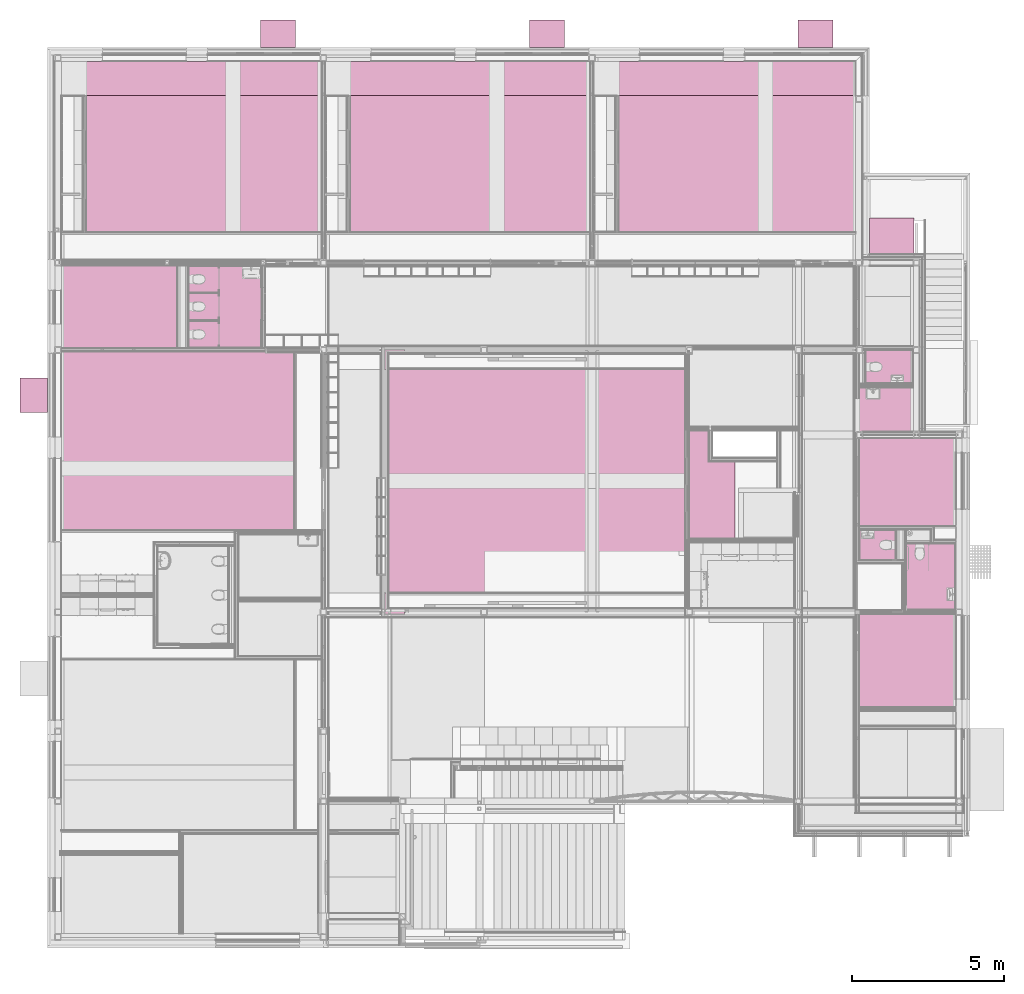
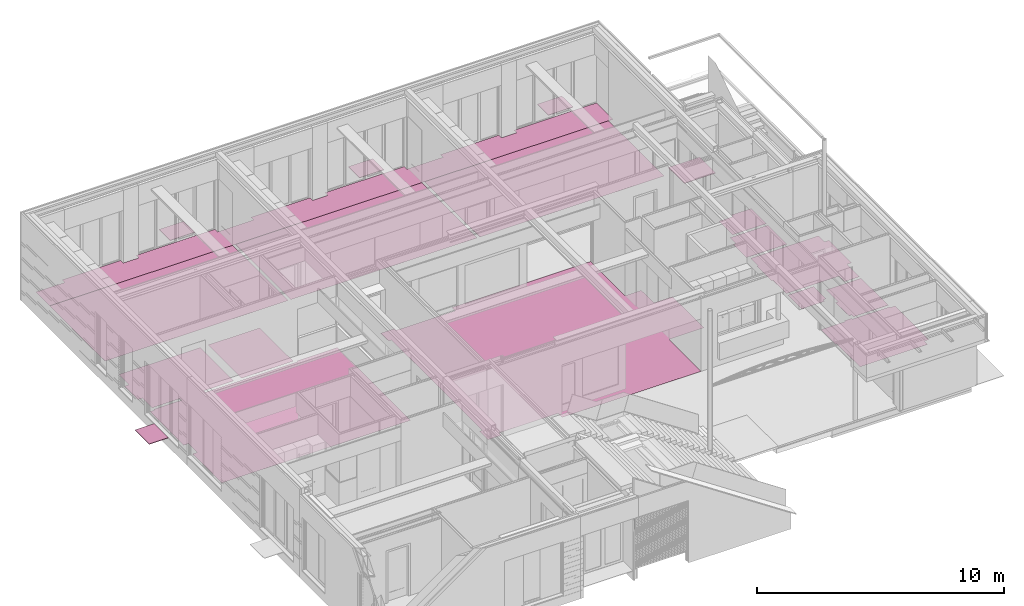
# One storey, part 125 of 165: 18 furnishings.
"""IFC2X3 building model written with IfcOpenShell, lengths in millimetres."""

from ifc_helpers import new_model, entity, si_unit, converted_unit, derived_unit, money_unit, direction, frame, origin_with_axes, place, context, subcontext, project, spatial, faceted_brep, material, type_object, element, save


model = new_model("IFC2X3")

# Units and contexts
model_context = context("Model", 3, precision=0.01, world=origin_with_axes(), true_north=direction((0.0, 1.0)))
body_context = subcontext(model_context, "Body", "Model", "MODEL_VIEW")
ifc_project = project(units=[si_unit("LENGTHUNIT", "METRE", prefix="MILLI"), si_unit("AREAUNIT", "SQUARE_METRE"), si_unit("VOLUMEUNIT", "CUBIC_METRE"), converted_unit("PLANEANGLEUNIT", "DEGREE", entity("IfcPlaneAngleMeasure", 0.0174532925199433), si_unit("PLANEANGLEUNIT", "RADIAN"), dimensions=[0, 0, 0, 0, 0, 0, 0]), money_unit("EUR"), converted_unit("TIMEUNIT", "Year", entity("IfcTimeMeasure", 31556926.0), si_unit("TIMEUNIT", "SECOND"), dimensions=[0, 0, 1, 0, 0, 0, 0]), si_unit("MASSUNIT", "GRAM", prefix="KILO"), si_unit("THERMODYNAMICTEMPERATUREUNIT", "DEGREE_CELSIUS"), si_unit("LUMINOUSINTENSITYUNIT", "LUMEN"), si_unit("ENERGYUNIT", "JOULE", prefix="MEGA"), derived_unit("THERMALCONDUCTANCEUNIT", [(si_unit("POWERUNIT", "WATT"), 1), (si_unit("LENGTHUNIT", "METRE"), -1), (si_unit("THERMODYNAMICTEMPERATUREUNIT", "KELVIN"), -1)]), derived_unit("SPECIFICHEATCAPACITYUNIT", [(si_unit("ENERGYUNIT", "JOULE"), 1), (si_unit("MASSUNIT", "GRAM", prefix="KILO"), -1), (si_unit("THERMODYNAMICTEMPERATUREUNIT", "KELVIN"), -1)]), derived_unit("MASSDENSITYUNIT", [(si_unit("MASSUNIT", "GRAM", prefix="KILO"), 1), (si_unit("VOLUMEUNIT", "CUBIC_METRE"), -1)])], contexts=[model_context])

# Site, building, storey
site_placement = place(None, origin_with_axes())
site = spatial("IfcSite", under=ifc_project, at=site_placement, Name="Site", CompositionType="ELEMENT")
building_placement = place(site_placement, origin_with_axes())
building = spatial("IfcBuilding", under=site, at=building_placement, Name="Naam gebouw", CompositionType="ELEMENT")
storey_placement = place(building_placement, origin_with_axes())
storey = spatial("IfcBuildingStorey", under=building, at=storey_placement, Name="Begane grond", CompositionType="ELEMENT", Elevation=0.0)

# Furnishings
ifc_material_1 = material(Name="48 vloeivloer Bolidt")
furniture_type_1 = type_object("IfcFurnitureType", Name="48 vloeivloer Bolidt 2", AssemblyPlace="NOTDEFINED")
furnishing_1_placement = place(storey_placement, frame((4404.999954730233, 19512.49988871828, 0.0), z_axis=(0.0, 0.0, 1.0), x_axis=(1.0, 0.0, 0.0)))
element("IfcFurnishingElement", 1, at=furnishing_1_placement, inside=storey, type_object=furniture_type_1, material=ifc_material_1, Name="72_43 vloeivloer", ObjectType="SHELF", context=body_context, shape_type="Brep", body=[
    faceted_brep([(0.0, 0.0, 2.0), (0.0, 0.0, 0.0), (2410.000098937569, 0.0, 0.0), (2410.000098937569, 0.0, 2.0), (0.0, 2717.488088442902, 2.0), (0.0, 2717.488088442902, 0.0), (2410.000098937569, 2717.488088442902, 0.0), (2410.000098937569, 2717.488088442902, 2.0)], [[[0, 1, 2, 3]], [[4, 5, 1, 0]], [[2, 1, 5, 6]], [[3, 2, 6, 7]], [[4, 0, 3, 7]], [[7, 6, 5, 4]]]),
])
furnishing_2_placement = place(storey_placement, frame((27925.99904368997, 11022.50018758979, 0.0), z_axis=(0.0, 0.0, 1.0), x_axis=(1.0, 0.0, 0.0)))
element("IfcFurnishingElement", 2, at=furnishing_2_placement, inside=storey, type_object=furniture_type_1, material=ifc_material_1, Name="72_47 vloeivloer", ObjectType="SHELF", context=body_context, shape_type="Brep", body=[
    faceted_brep([(0.0, 0.0, 2.0), (0.0, 0.0, 0.0), (124.0004792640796, 0.0, 0.0), (124.0004792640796, 0.0, 2.0), (0.0, 1080.000017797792, 2.0), (0.0, 1080.000017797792, 0.0), (124.0004792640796, 1080.000017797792, 0.0), (123.9995478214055, 2052.497579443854, 0.0), (1760.000983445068, 2052.497579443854, 0.0), (1760.000983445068, -150.0001490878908, 0.0), (123.9995478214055, -150.0001490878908, 0.0), (123.9995478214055, -150.0001490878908, 2.0), (1760.000983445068, -150.0001490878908, 2.0), (1760.000983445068, 2052.497579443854, 2.0), (123.9995478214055, 2052.497579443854, 2.0), (124.0004792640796, 1080.000017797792, 2.0)], [[[0, 1, 2, 3]], [[4, 5, 1, 0]], [[2, 1, 5, 6, 7, 8, 9, 10]], [[3, 2, 10, 11]], [[4, 0, 3, 11, 12, 13, 14, 15]], [[15, 6, 5, 4]], [[14, 7, 6, 15]], [[13, 8, 7, 14]], [[12, 9, 8, 13]], [[11, 10, 9, 12]]]),
])
furnishing_3_placement = place(storey_placement, frame((26711.000123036, 19450.00039292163, 0.0), z_axis=(0.0, 0.0, 1.0), x_axis=(1.0, 0.0, 0.0)))
element("IfcFurnishingElement", 3, at=furnishing_3_placement, inside=storey, type_object=furniture_type_1, material=ifc_material_1, Name="72_45 vloeivloer", ObjectType="SHELF", context=body_context, shape_type="Brep", body=[
    faceted_brep([(0.0, 0.0, 2.0), (0.0, 0.0, 0.0), (0.0, -1114.000073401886, 0.0), (0.0, -1114.000073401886, 2.0), (644.9998566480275, -3.506379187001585e-06, 2.0), (644.9998566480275, -3.506379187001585e-06, 0.0), (644.9998561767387, 124.9999996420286, 0.0), (1574.999846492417, 125.0000031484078, 0.0), (1574.999846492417, -1114.000073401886, 0.0), (1574.999846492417, -1114.000073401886, 2.0), (1574.999846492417, 125.0000031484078, 2.0), (644.9998561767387, 124.9999996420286, 2.0)], [[[0, 1, 2, 3]], [[4, 5, 1, 0]], [[2, 1, 5, 6, 7, 8]], [[3, 2, 8, 9]], [[4, 0, 3, 9, 10, 11]], [[11, 6, 5, 4]], [[10, 7, 6, 11]], [[9, 8, 7, 10]]]),
])
furnishing_4_placement = place(storey_placement, frame((26510.99998966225, 17740.99778355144, 0.0), z_axis=(0.0, 0.0, 1.0), x_axis=(1.0, 0.0, 0.0)))
element("IfcFurnishingElement", 4, at=furnishing_4_placement, inside=storey, type_object=furniture_type_1, material=ifc_material_1, Name="72_46 vloeivloer", ObjectType="SHELF", context=body_context, shape_type="Brep", body=[
    faceted_brep([(0.0, 0.0, 2.0), (0.0, 0.0, 0.0), (-124.9999550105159, 0.0, 0.0), (-124.9999550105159, 0.0, 2.0), (0.0, 470.002506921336, 2.0), (0.0, 470.002506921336, 0.0), (1774.999882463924, 470.002506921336, 0.0), (1774.999882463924, -1080.000005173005, 0.0), (-124.9999550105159, -1080.000005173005, 0.0), (-124.9999550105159, -1080.000005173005, 2.0), (1774.999882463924, -1080.000005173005, 2.0), (1774.999882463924, 470.002506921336, 2.0)], [[[0, 1, 2, 3]], [[4, 5, 1, 0]], [[2, 1, 5, 6, 7, 8]], [[3, 2, 8, 9]], [[4, 0, 3, 9, 10, 11]], [[11, 6, 5, 4]], [[10, 7, 6, 11]], [[9, 8, 7, 10]]]),
])
furnishing_5_placement = place(storey_placement, frame((26510.99992682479, 13524.99789537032, 0.0), z_axis=(0.0, 0.0, 1.0), x_axis=(1.0, 0.0, 0.0)))
element("IfcFurnishingElement", 5, at=furnishing_5_placement, inside=storey, type_object=furniture_type_1, material=ifc_material_1, Name="72_47 vloeivloer", ObjectType="SHELF", context=body_context, shape_type="Brep", body=[
    faceted_brep([(0.0, 0.0, 2.0), (0.0, 0.0, 0.0), (0.0, -1124.999557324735, 0.0), (0.0, -1124.999557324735, 2.0), (1213.998271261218, 0.0, 2.0), (1213.998271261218, 0.0, 0.0), (1213.998552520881, -999.9987627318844, 0.0), (1079.999698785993, -999.9987627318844, 0.0), (1079.999698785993, -1124.999557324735, 0.0), (1079.999698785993, -1124.999557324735, 2.0), (1079.999698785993, -999.9987627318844, 2.0), (1213.998552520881, -999.9987627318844, 2.0)], [[[0, 1, 2, 3]], [[4, 5, 1, 0]], [[1, 5, 6, 7, 8, 2]], [[3, 2, 8, 9]], [[4, 0, 3, 9, 10, 11]], [[11, 6, 5, 4]], [[10, 7, 6, 11]], [[9, 8, 7, 10]]]),
])
ifc_material_2 = material(Name="43 Forbo Walton")
furniture_type_2 = type_object("IfcFurnitureType", Name="43 Forbo Walton 2", AssemblyPlace="NOTDEFINED")
furnishing_6_placement = place(storey_placement, frame((0.0, 16584.9998112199, 0.0), z_axis=(0.0, 0.0, 1.0), x_axis=(1.0, 0.0, 0.0)))
element("IfcFurnishingElement", 6, at=furnishing_6_placement, inside=storey, type_object=furniture_type_2, material=ifc_material_2, Name="72_43 marmoleum", ObjectType="SHELF", context=body_context, shape_type="Brep", body=[
    faceted_brep([(0.0, 0.0, 2.0), (0.0, 0.0, 0.0), (213.9999657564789, 0.0, 0.0), (213.9999657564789, 0.0, 2.0), (0.0, 2739.999999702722, 2.0), (0.0, 2739.999999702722, 0.0), (213.9999657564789, 2739.999999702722, 0.0), (213.9999657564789, 2802.500053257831, 0.0), (1513.999991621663, 2802.500053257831, 0.0), (1513.999991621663, 2927.500024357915, 0.0), (213.9999657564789, 2927.500024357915, 0.0), (214.0000000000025, 3724.999999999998, 0.0), (-2.579227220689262e-06, 3724.999999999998, 0.0), (-2.579227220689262e-06, 4824.999999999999, 0.0), (214.0000000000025, 4824.999999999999, 0.0), (213.9999657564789, 5644.987164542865, 0.0), (4030.000052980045, 5644.987164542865, 0.0), (4030.000052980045, 2927.500024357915, 0.0), (2644.000007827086, 2927.500024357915, 0.0), (2644.000007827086, 2802.500053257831, 0.0), (6939.999918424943, 2802.500053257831, 0.0), (6939.999918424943, 2864.99997080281, 0.0), (8849.999966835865, 2864.99997080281, 0.0), (8849.999966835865, -3079.999546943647, 0.0), (0.0, -3079.999546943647, 0.0), (0.0, -710.0000000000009, 0.0), (213.9999657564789, -710.0000000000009, 0.0), (213.9999657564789, -710.0000000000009, 2.0), (0.0, -710.0000000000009, 2.0), (0.0, -3079.999546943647, 2.0), (8849.999966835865, -3079.999546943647, 2.0), (8849.999966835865, 2864.99997080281, 2.0), (6939.999918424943, 2864.99997080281, 2.0), (6939.999918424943, 2802.500053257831, 2.0), (2644.000007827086, 2802.500053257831, 2.0), (2644.000007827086, 2927.500024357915, 2.0), (4030.000052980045, 2927.500024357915, 2.0), (4030.000052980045, 5644.987164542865, 2.0), (213.9999657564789, 5644.987164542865, 2.0), (214.0000000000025, 4824.999999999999, 2.0), (-2.579227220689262e-06, 4824.999999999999, 2.0), (-2.579227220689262e-06, 3724.999999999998, 2.0), (214.0000000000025, 3724.999999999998, 2.0), (213.9999657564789, 2927.500024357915, 2.0), (1513.999991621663, 2927.500024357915, 2.0), (1513.999991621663, 2802.500053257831, 2.0), (213.9999657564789, 2802.500053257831, 2.0), (213.9999657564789, 2739.999999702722, 2.0)], [[[0, 1, 2, 3]], [[4, 5, 1, 0]], [[2, 1, 5, 6, 7, 8, 9, 10, 11, 12, 13, 14, 15, 16, 17, 18, 19, 20, 21, 22, 23, 24, 25, 26]], [[3, 2, 26, 27]], [[4, 0, 3, 27, 28, 29, 30, 31, 32, 33, 34, 35, 36, 37, 38, 39, 40, 41, 42, 43, 44, 45, 46, 47]], [[47, 6, 5, 4]], [[46, 7, 6, 47]], [[45, 8, 7, 46]], [[44, 9, 8, 45]], [[43, 10, 9, 44]], [[42, 11, 10, 43]], [[41, 12, 11, 42]], [[40, 13, 12, 41]], [[39, 14, 13, 40]], [[38, 15, 14, 39]], [[37, 16, 15, 38]], [[36, 17, 16, 37]], [[35, 18, 17, 36]], [[34, 19, 18, 35]], [[33, 20, 19, 34]], [[32, 21, 20, 33]], [[31, 22, 21, 32]], [[30, 23, 22, 31]], [[29, 24, 23, 30]], [[28, 25, 24, 29]], [[27, 26, 25, 28]]]),
])
furnishing_7_placement = place(storey_placement, frame((26448.49999566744, 9547.50013331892, 0.0), z_axis=(0.0, 0.0, 1.0), x_axis=(1.0, 0.0, 0.0)))
element("IfcFurnishingElement", 7, at=furnishing_7_placement, inside=storey, type_object=furniture_type_2, material=ifc_material_2, Name="72_44 marmoleum", ObjectType="SHELF", context=body_context, shape_type="Brep", body=[
    faceted_brep([(0.0, 0.0, 2.0), (0.0, 0.0, 0.0), (62.50026497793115, 0.0, 0.0), (62.50026497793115, 0.0, 2.0), (0.0, 1200.000068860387, 2.0), (0.0, 1200.000068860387, 0.0), (1142.317457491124, 1200.000068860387, 0.0), (1142.317457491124, 1262.499706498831, 0.0), (1476.500262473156, 1262.499706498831, 0.0), (1476.500262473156, 1200.000068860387, 0.0), (3237.499924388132, 1200.000068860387, 0.0), (3237.499924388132, 1147.499977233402, 0.0), (3451.500166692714, 1147.499977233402, 0.0), (3451.500166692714, -1602.500022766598, 0.0), (3237.499924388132, -1602.500022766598, 0.0), (3237.499924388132, -1872.502041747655, 0.0), (62.50026497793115, -1872.502041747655, 0.0), (62.50026497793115, -1872.502041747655, 2.0), (3237.499924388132, -1872.502041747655, 2.0), (3237.499924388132, -1602.500022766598, 2.0), (3451.500166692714, -1602.500022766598, 2.0), (3451.500166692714, 1147.499977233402, 2.0), (3237.499924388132, 1147.499977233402, 2.0), (3237.499924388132, 1200.000068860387, 2.0), (1476.500262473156, 1200.000068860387, 2.0), (1476.500262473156, 1262.499706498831, 2.0), (1142.317457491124, 1262.499706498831, 2.0), (1142.317457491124, 1200.000068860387, 2.0)], [[[0, 1, 2, 3]], [[4, 5, 1, 0]], [[2, 1, 5, 6, 7, 8, 9, 10, 11, 12, 13, 14, 15, 16]], [[3, 2, 16, 17]], [[4, 0, 3, 17, 18, 19, 20, 21, 22, 23, 24, 25, 26, 27]], [[27, 6, 5, 4]], [[26, 7, 6, 27]], [[25, 8, 7, 26]], [[24, 9, 8, 25]], [[23, 10, 9, 24]], [[22, 11, 10, 23]], [[21, 12, 11, 22]], [[20, 13, 12, 21]], [[19, 14, 13, 20]], [[18, 15, 14, 19]], [[17, 16, 15, 18]]]),
])
furnishing_8_placement = place(storey_placement, frame((26448.49983591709, 15929.9977211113, 0.0), z_axis=(0.0, 0.0, 1.0), x_axis=(1.0, 0.0, 0.0)))
element("IfcFurnishingElement", 8, at=furnishing_8_placement, inside=storey, type_object=furniture_type_2, material=ifc_material_2, Name="72_43 marmoleum", ObjectType="SHELF", context=body_context, shape_type="Brep", body=[
    faceted_brep([(0.0, 0.0, 2.0), (0.0, 0.0, 0.0), (0.0, -1200.000057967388, 0.0), (0.0, -1200.000057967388, 2.0), (62.50026441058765, 0.0, 2.0), (62.50026441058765, 0.0, 0.0), (62.50026441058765, 605.9999038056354, 0.0), (3237.500208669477, 605.9999038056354, 0.0), (3237.500208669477, 126.0000605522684, 0.0), (3451.50013536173, 126.0000605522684, 0.0), (3451.50013536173, -1723.999939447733, 0.0), (3237.500208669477, -1723.999939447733, 0.0), (3237.500208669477, -2729.999801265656, 0.0), (2537.500255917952, -2729.999944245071, 0.0), (2537.500164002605, -2279.999939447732, 0.0), (62.50026441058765, -2279.999796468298, 0.0), (62.50026441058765, -1200.000057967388, 0.0), (62.50026441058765, -1200.000057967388, 2.0), (62.50026441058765, -2279.999796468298, 2.0), (2537.500164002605, -2279.999939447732, 2.0), (2537.500255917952, -2729.999944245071, 2.0), (3237.500208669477, -2729.999801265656, 2.0), (3237.500208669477, -1723.999939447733, 2.0), (3451.50013536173, -1723.999939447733, 2.0), (3451.50013536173, 126.0000605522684, 2.0), (3237.500208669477, 126.0000605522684, 2.0), (3237.500208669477, 605.9999038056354, 2.0), (62.50026441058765, 605.9999038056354, 2.0)], [[[0, 1, 2, 3]], [[4, 5, 1, 0]], [[2, 1, 5, 6, 7, 8, 9, 10, 11, 12, 13, 14, 15, 16]], [[3, 2, 16, 17]], [[4, 0, 3, 17, 18, 19, 20, 21, 22, 23, 24, 25, 26, 27]], [[27, 6, 5, 4]], [[26, 7, 6, 27]], [[25, 8, 7, 26]], [[24, 9, 8, 25]], [[23, 10, 9, 24]], [[22, 11, 10, 23]], [[21, 12, 11, 22]], [[20, 13, 12, 21]], [[19, 14, 13, 20]], [[18, 15, 14, 19]], [[17, 16, 15, 18]]]),
])
furnishing_9_placement = place(storey_placement, frame((214.0000000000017, 23324.99984707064, 0.0), z_axis=(0.0, 0.0, 1.0), x_axis=(1.0, 0.0, 0.0)))
element("IfcFurnishingElement", 9, at=furnishing_9_placement, inside=storey, type_object=furniture_type_2, material=ifc_material_2, Name="72_43 marmoleum", ObjectType="SHELF", context=body_context, shape_type="Brep", body=[
    faceted_brep([(0.0, 0.0, 2.0), (0.0, 0.0, 0.0), (8573.500041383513, 0.0, 0.0), (8573.500041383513, 0.0, 2.0), (0.0, 4506.000093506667, 2.0), (0.0, 4506.000093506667, 0.0), (8573.500041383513, 4506.000093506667, 0.0), (8573.500041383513, 4506.000093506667, 2.0)], [[[0, 1, 2, 3]], [[4, 5, 1, 0]], [[2, 1, 5, 6]], [[3, 2, 6, 7]], [[4, 0, 3, 7]], [[7, 6, 5, 4]]]),
])
furnishing_10_placement = place(storey_placement, frame((10874.99561973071, 11449.99777866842, 0.0), z_axis=(0.0, 0.0, 1.0), x_axis=(1.0, 0.0, 0.0)))
element("IfcFurnishingElement", 10, at=furnishing_10_placement, inside=storey, type_object=furniture_type_2, material=ifc_material_2, Name="72_43 marmoleum", ObjectType="SHELF", context=body_context, shape_type="Brep", body=[
    faceted_brep([(0.0, 0.0, 2.0), (0.0, 0.0, 0.0), (0.004884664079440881, -694.9990031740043, 0.0), (0.004884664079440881, -694.9990031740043, 2.0), (135.0043007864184, 0.00118371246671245, 2.0), (135.0043007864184, 0.00118371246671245, 0.0), (135.0043007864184, 7360.00262268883, 0.0), (0.004498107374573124, 7360.00262268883, 0.0), (0.004498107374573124, 8000.002572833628, 0.0), (640.0042115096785, 8000.002572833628, 0.0), (640.0042115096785, 7865.002770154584, 0.0), (3400.002330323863, 7865.002614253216, 0.0), (3400.002146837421, 8135.002614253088, 0.0), (9900.002290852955, 8135.007031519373, 0.0), (9900.00360114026, 5339.999902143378, 0.0), (10665.00342026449, 5339.999902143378, 0.0), (10665.00342026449, 4324.999996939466, 0.0), (11540.00355261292, 4324.999996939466, 0.0), (11540.00355261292, 1780.000283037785, 0.0), (9900.00360114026, 1780.000283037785, 0.0), (9900.006575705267, -829.997168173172, 0.0), (3400.006361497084, -829.998961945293, 0.0), (3400.006271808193, -504.9979166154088, 0.0), (640.0042115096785, -504.9987270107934, 0.0), (640.0052110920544, -694.9973459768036, 0.0), (640.0052110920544, -694.9973459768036, 2.0), (640.0042115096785, -504.9987270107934, 2.0), (3400.006271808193, -504.9979166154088, 2.0), (3400.006361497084, -829.998961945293, 2.0), (9900.006575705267, -829.997168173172, 2.0), (9900.00360114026, 1780.000283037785, 2.0), (11540.00355261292, 1780.000283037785, 2.0), (11540.00355261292, 4324.999996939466, 2.0), (10665.00342026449, 4324.999996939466, 2.0), (10665.00342026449, 5339.999902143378, 2.0), (9900.00360114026, 5339.999902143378, 2.0), (9900.002290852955, 8135.007031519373, 2.0), (3400.002146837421, 8135.002614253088, 2.0), (3400.002330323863, 7865.002614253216, 2.0), (640.0042115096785, 7865.002770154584, 2.0), (640.0042115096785, 8000.002572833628, 2.0), (0.004498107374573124, 8000.002572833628, 2.0), (0.004498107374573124, 7360.00262268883, 2.0), (135.0043007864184, 7360.00262268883, 2.0)], [[[0, 1, 2, 3]], [[4, 5, 1, 0]], [[2, 1, 5, 6, 7, 8, 9, 10, 11, 12, 13, 14, 15, 16, 17, 18, 19, 20, 21, 22, 23, 24]], [[3, 2, 24, 25]], [[4, 0, 3, 25, 26, 27, 28, 29, 30, 31, 32, 33, 34, 35, 36, 37, 38, 39, 40, 41, 42, 43]], [[43, 6, 5, 4]], [[42, 7, 6, 43]], [[41, 8, 7, 42]], [[40, 9, 8, 41]], [[39, 10, 9, 40]], [[38, 11, 10, 39]], [[37, 12, 11, 38]], [[36, 13, 12, 37]], [[35, 14, 13, 36]], [[34, 15, 14, 35]], [[33, 16, 15, 34]], [[32, 17, 16, 33]], [[31, 18, 17, 32]], [[30, 19, 18, 31]], [[29, 20, 19, 30]], [[28, 21, 20, 29]], [[27, 22, 21, 28]], [[26, 23, 22, 27]], [[25, 24, 23, 26]]]),
])
furnishing_11_placement = place(storey_placement, frame((17762.49942456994, 27830.99998847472, 0.0), z_axis=(0.0, 0.0, 1.0), x_axis=(1.0, 0.0, 0.0)))
element("IfcFurnishingElement", 11, at=furnishing_11_placement, inside=storey, type_object=furniture_type_2, material=ifc_material_2, Name="72_43 marmoleum", ObjectType="SHELF", context=body_context, shape_type="Brep", body=[
    faceted_brep([(0.0, 0.0, 2.0), (0.0, 0.0, 0.0), (0.0, -4506.000141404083, 0.0), (0.0, -4506.000141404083, 2.0), (8623.500576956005, 0.0, 2.0), (8623.500576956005, 0.0, 0.0), (8623.500576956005, -4506.000141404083, 0.0), (8623.500576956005, -4506.000141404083, 2.0)], [[[0, 1, 2, 3]], [[4, 5, 1, 0]], [[2, 1, 5, 6]], [[3, 2, 6, 7]], [[4, 0, 3, 7]], [[7, 6, 5, 4]]]),
])
furnishing_12_placement = place(storey_placement, frame((8912.49998279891, 23324.99984707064, 0.0), z_axis=(0.0, 0.0, 1.0), x_axis=(1.0, 0.0, 0.0)))
element("IfcFurnishingElement", 12, at=furnishing_12_placement, inside=storey, type_object=furniture_type_2, material=ifc_material_2, Name="72_43 marmoleum", ObjectType="SHELF", context=body_context, shape_type="Brep", body=[
    faceted_brep([(0.0, 0.0, 2.0), (0.0, 0.0, 0.0), (8724.999441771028, 0.0, 0.0), (8724.999441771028, 0.0, 2.0), (0.0, 4506.000031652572, 2.0), (0.0, 4506.000031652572, 0.0), (8724.999441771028, 4506.000031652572, 0.0), (8724.999441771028, 4506.000031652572, 2.0)], [[[0, 1, 2, 3]], [[4, 5, 1, 0]], [[2, 1, 5, 6]], [[3, 2, 6, 7]], [[4, 0, 3, 7]], [[7, 6, 5, 4]]]),
])
ifc_material_3 = material(Name="43 Forbo Striato")
furniture_type_3 = type_object("IfcFurnitureType", Name="43 Forbo Striato  2", AssemblyPlace="NOTDEFINED")
furnishing_13_placement = place(storey_placement, frame((214.0000000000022, 28961.0, 0.0), z_axis=(0.0, 0.0, 1.0), x_axis=(1.0, 0.0, 0.0)))
element("IfcFurnishingElement", 13, at=furnishing_13_placement, inside=storey, type_object=furniture_type_3, material=ifc_material_3, Name="72_43 marmoleum", ObjectType="SHELF", context=body_context, shape_type="Brep", body=[
    faceted_brep([(0.0, 0.0, 2.0), (0.0, 0.0, 0.0), (0.0, -1130.000000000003, 0.0), (0.0, -1130.000000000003, 2.0), (1361.000000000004, 0.0, 2.0), (1361.000000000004, 0.0, 0.0), (1361.000000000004, 214.0000025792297, 0.0), (4111.000000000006, 214.0000025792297, 0.0), (4111.000000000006, 0.0, 0.0), (4821.000000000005, 0.0, 0.0), (4821.000000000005, 214.0000025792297, 0.0), (8521.000000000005, 214.0000025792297, 0.0), (8521.000000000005, 0.0, 0.0), (10210.99942456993, 0.0, 0.0), (10210.99942456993, 214.0000025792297, 0.0), (12960.99942456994, 214.0000025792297, 0.0), (12960.99942456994, 0.0, 0.0), (13670.99942456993, 0.0, 0.0), (13670.99942456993, 214.0000025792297, 0.0), (17370.99942456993, 214.0000025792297, 0.0), (17370.99942456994, 0.0, 0.0), (19060.99942456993, 0.0, 0.0), (19060.99942456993, 214.0000025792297, 0.0), (21810.99942456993, 214.0000025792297, 0.0), (21810.99942456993, 0.0, 0.0), (22520.99942456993, 0.0, 0.0), (22520.99942456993, 214.0000025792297, 0.0), (26386.0, 214.0000000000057, 0.0), (26386.0, -1130.000000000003, 0.0), (26386.0, -1130.000000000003, 2.0), (26386.0, 214.0000000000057, 2.0), (22520.99942456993, 214.0000025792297, 2.0), (22520.99942456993, 0.0, 2.0), (21810.99942456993, 0.0, 2.0), (21810.99942456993, 214.0000025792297, 2.0), (19060.99942456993, 214.0000025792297, 2.0), (19060.99942456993, 0.0, 2.0), (17370.99942456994, 0.0, 2.0), (17370.99942456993, 214.0000025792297, 2.0), (13670.99942456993, 214.0000025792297, 2.0), (13670.99942456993, 0.0, 2.0), (12960.99942456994, 0.0, 2.0), (12960.99942456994, 214.0000025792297, 2.0), (10210.99942456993, 214.0000025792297, 2.0), (10210.99942456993, 0.0, 2.0), (8521.000000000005, 0.0, 2.0), (8521.000000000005, 214.0000025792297, 2.0), (4821.000000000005, 214.0000025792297, 2.0), (4821.000000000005, 0.0, 2.0), (4111.000000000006, 0.0, 2.0), (4111.000000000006, 214.0000025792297, 2.0), (1361.000000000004, 214.0000025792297, 2.0)], [[[0, 1, 2, 3]], [[4, 5, 1, 0]], [[2, 1, 5, 6, 7, 8, 9, 10, 11, 12, 13, 14, 15, 16, 17, 18, 19, 20, 21, 22, 23, 24, 25, 26, 27, 28]], [[3, 2, 28, 29]], [[4, 0, 3, 29, 30, 31, 32, 33, 34, 35, 36, 37, 38, 39, 40, 41, 42, 43, 44, 45, 46, 47, 48, 49, 50, 51]], [[51, 6, 5, 4]], [[50, 7, 6, 51]], [[49, 8, 7, 50]], [[48, 9, 8, 49]], [[47, 10, 9, 48]], [[46, 11, 10, 47]], [[45, 12, 11, 46]], [[44, 13, 12, 45]], [[43, 14, 13, 44]], [[42, 15, 14, 43]], [[41, 16, 15, 42]], [[40, 17, 16, 41]], [[39, 18, 17, 40]], [[38, 19, 18, 39]], [[37, 20, 19, 38]], [[36, 21, 20, 37]], [[35, 22, 21, 36]], [[34, 23, 22, 35]], [[33, 24, 23, 34]], [[32, 25, 24, 33]], [[31, 26, 25, 32]], [[30, 27, 26, 31]], [[29, 28, 27, 30]]]),
])
ifc_material_4 = material(Name="Vloerafwerking - schoonloopzone 1")
furniture_type_4 = type_object("IfcFurnitureType", Name="Vloerafwerking - schoonloopzone 1 25", AssemblyPlace="NOTDEFINED")
furnishing_14_placement = place(storey_placement, frame((26850.0, 22496.97621575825, -20.0), z_axis=(0.0, 0.0, 1.0), x_axis=(1.0, 0.0, 0.0)))
element("IfcFurnishingElement", 14, at=furnishing_14_placement, inside=storey, type_object=furniture_type_4, material=ifc_material_4, Name="72_43 schoonloop zone 1", ObjectType="SHELF", context=body_context, shape_type="Brep", body=[
    faceted_brep([(0.0, 0.0, 0.0), (0.0, 0.0, -25.0), (1466.000071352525, 0.0, -25.0), (1466.000071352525, 0.0, 0.0), (0.0, 1300.000000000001, 0.0), (0.0, 1300.000000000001, -25.0), (1466.000071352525, 1300.000000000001, -25.0), (1466.000071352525, 1300.000000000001, 0.0)], [[[0, 1, 2, 3]], [[4, 5, 1, 0]], [[2, 1, 5, 6]], [[3, 2, 6, 7]], [[4, 0, 3, 7]], [[7, 6, 5, 4]]]),
])
furnishing_15_placement = place(storey_placement, frame((-249.9999999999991, 18534.9998112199, -20.0), z_axis=(0.0, 0.0, 1.0), x_axis=(1.0, 0.0, 0.0)))
element("IfcFurnishingElement", 15, at=furnishing_15_placement, inside=storey, type_object=furniture_type_4, material=ifc_material_4, Name="72_43 schoonloop zone 1", ObjectType="SHELF", context=body_context, shape_type="Brep", body=[
    faceted_brep([(0.0, 0.0, 0.0), (0.0, 0.0, -25.0), (-899.9999999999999, 0.0, -25.0), (-899.9999999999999, 0.0, 0.0), (0.0, -1149.999999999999, 0.0), (0.0, -1149.999999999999, -25.0), (-900.0000000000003, -1149.999999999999, -25.0), (-900.0000000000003, -1149.999999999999, 0.0)], [[[0, 1, 2, 3]], [[4, 5, 1, 0]], [[2, 1, 5, 6]], [[3, 2, 6, 7]], [[4, 0, 3, 7]], [[7, 6, 5, 4]]]),
])
for number, where, z_axis, x_axis, name in (
    (16, (7931.699117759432, 29425.0, -20.0), (0.0, 0.0, 1.0), (1.0, 0.0, 0.0), "72_43 schoonloop zone 1"),
    (17, (16788.11739454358, 29425.0, -20.0), (0.0, 0.0, 1.0), (1.0, 0.0, 0.0), "72_43 schoonloop zone 1"),
    (18, (25638.03193361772, 29425.0, -20.0), (0.0, 0.0, 1.0), (1.0, 0.0, 0.0), "72_43 schoonloop zone 1"),
):
    element("IfcFurnishingElement", number, at=place(storey_placement, frame(where, z_axis=z_axis, x_axis=x_axis)), inside=storey, type_object=furniture_type_4, material=ifc_material_4, Name=name, ObjectType="SHELF", context=body_context, shape_type="Brep", body=[
        faceted_brep([(0.0, 0.0, 0.0), (0.0, 0.0, -25.0), (0.0, 899.9999999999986, -25.0), (0.0, 899.9999999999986, 0.0), (-1149.999999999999, 0.0, 0.0), (-1149.999999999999, 0.0, -25.0), (-1149.999999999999, 900.0000000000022, -25.0), (-1149.999999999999, 900.0000000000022, 0.0)], [[[0, 1, 2, 3]], [[4, 5, 1, 0]], [[2, 1, 5, 6]], [[3, 2, 6, 7]], [[4, 0, 3, 7]], [[7, 6, 5, 4]]]),
    ])

save(model, "model.ifc")
